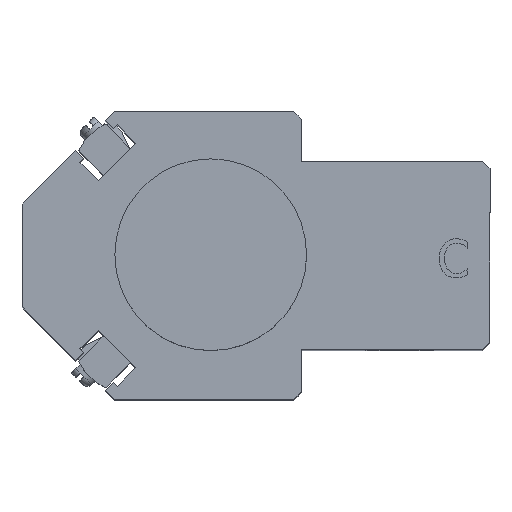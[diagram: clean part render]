
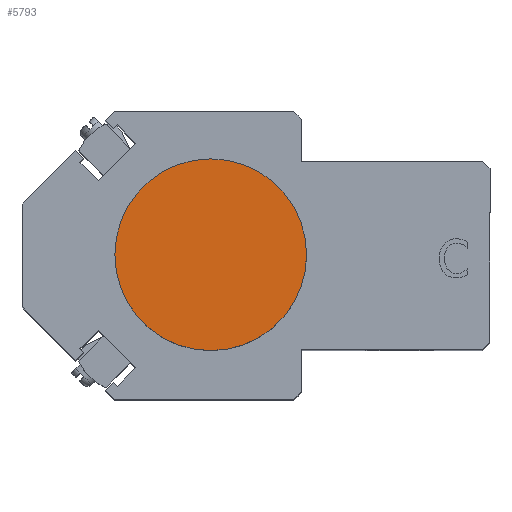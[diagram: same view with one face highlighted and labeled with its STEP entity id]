
A CAD part, top view. The second image highlights one B-rep face of the part: STEP entity #5793.
In plain terms, the highlighted planar face has unit normal (0, 0, 1) as drawn and (1, 0, 0) by its records, which use the part's own axes.
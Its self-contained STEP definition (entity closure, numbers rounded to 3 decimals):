
#519=PLANE('',#6600);
#811=FACE_OUTER_BOUND('',#1155,.T.);
#1155=EDGE_LOOP('',(#5373,#5374));
#2411=CIRCLE('',#6601,12.7);
#2412=CIRCLE('',#6602,12.7);
#2968=VERTEX_POINT('',#10208);
#2969=VERTEX_POINT('',#10209);
#3777=EDGE_CURVE('',#2968,#2969,#2411,.T.);
#3778=EDGE_CURVE('',#2969,#2968,#2412,.T.);
#5373=ORIENTED_EDGE('',*,*,#3777,.F.);
#5374=ORIENTED_EDGE('',*,*,#3778,.F.);
#5793=ADVANCED_FACE('',(#811),#519,.T.);
#6600=AXIS2_PLACEMENT_3D('',#10207,#8181,#8182);
#6601=AXIS2_PLACEMENT_3D('',#10210,#8183,#8184);
#6602=AXIS2_PLACEMENT_3D('',#10211,#8185,#8186);
#8181=DIRECTION('center_axis',(1.,0.,0.));
#8182=DIRECTION('ref_axis',(0.,0.,-1.));
#8183=DIRECTION('center_axis',(-1.,0.,0.));
#8184=DIRECTION('ref_axis',(0.,-1.,0.));
#8185=DIRECTION('center_axis',(-1.,0.,0.));
#8186=DIRECTION('ref_axis',(0.,-1.,0.));
#10207=CARTESIAN_POINT('Origin',(13.,-6.35,0.));
#10208=CARTESIAN_POINT('',(13.,-12.7,0.));
#10209=CARTESIAN_POINT('',(13.,12.7,0.));
#10210=CARTESIAN_POINT('Origin',(13.,0.,0.));
#10211=CARTESIAN_POINT('Origin',(13.,0.,0.));
